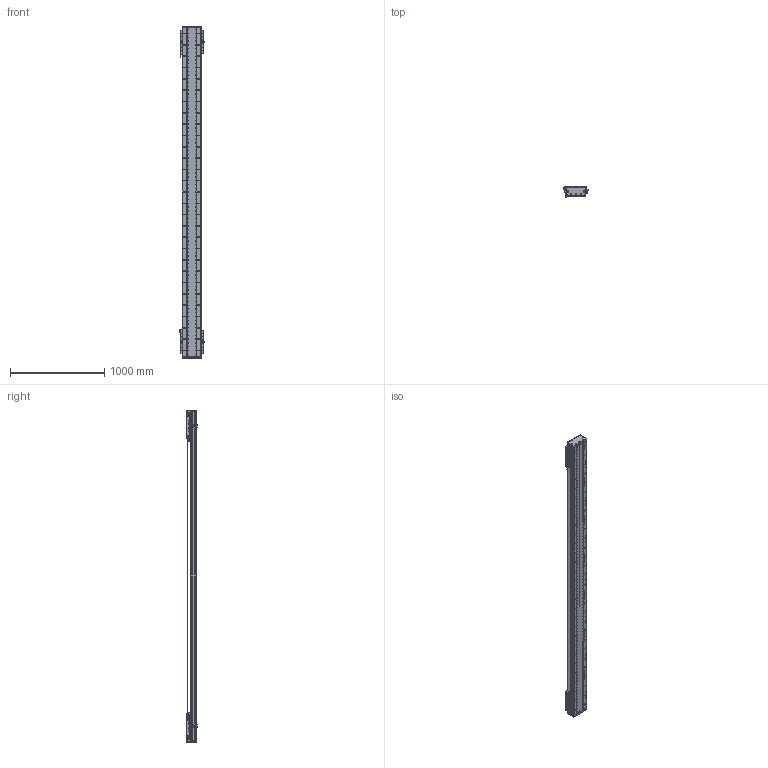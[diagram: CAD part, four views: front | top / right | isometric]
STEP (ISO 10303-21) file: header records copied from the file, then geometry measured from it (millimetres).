
FILE_DESCRIPTION (( 'STEP AP203' ), '1' );
FILE_NAME ('DA-C195-2-C3-T2900-C010-0.2 眻盄萇儂.STEP', '2025-08-15T00:53:05', ( '' ), ( '' ), 'SwSTEP 2.0', 'SolidWorks 2019', '' );
FILE_SCHEMA (( 'CONFIG_CONTROL_DESIGN' ));
Length unit declared in the file: millimetre
Products named in the file (19): DA195詩湍菜輸; DKW-KGZ-ZJ-00 中间光电开关支架; DKW168-HXJ-ZJ-00 笢潔滅袉砎蝶; PM-T45ㄗ侂狟ㄘ; DA-C195-2-C3-T2900-C010-0.2 眻盄萇儂; DA195詩湍嶺輸; DA165-GYP-00 光电感应片(默认); PM-Y65嫖萇羲壽郪璃; LMT黍杅芛; MS200 棠掑喜S315-T240; DA195詩湍郪璃; DKW-GYP-ZJ-00 笢潔嫖萇覜茼え; IU-CU195-L-00 菁釱(L3480); DA195詩湍裔啣; DA95-HXJ-00 遣喳砎蝶; DA-C195-GD-DB-H-00 傷啣; IU-CU195-L 菁釱絳寢; CU195-C3賑輸-俋楷; 葩璃 DA95-GT-T-00
Assembly tree (37 placements, depth 3):
  DA-C195-2-C3-T2900-C010-0.2 眻盄萇儂
    DA195詩湍郪璃
      DA195詩湍菜輸  x2
      DA195詩湍裔啣
      DA195詩湍嶺輸  x2
      DA95-HXJ-00 遣喳砎蝶  x8
      DA-C195-GD-DB-H-00 傷啣  x2
    IU-CU195-L 菁釱絳寢
      IU-CU195-L-00 菁釱(L3480)
      葩璃 DA95-GT-T-00  x4
    LMT黍杅芛  x2
    MS200 棠掑喜S315-T240
    PM-T45ㄗ侂狟ㄘ  x4
    DA165-GYP-00 光电感应片(默认)  x2
    PM-Y65嫖萇羲壽郪璃
    DKW168-HXJ-ZJ-00 笢潔滅袉砎蝶
    DKW-GYP-ZJ-00 笢潔嫖萇覜茼え
    DKW-KGZ-ZJ-00 中间光电开关支架
    CU195-C3賑輸-俋楷  x2
Bounding box: 258.2 x 115.45 x 3520 mm (x, y, z)
Volume: 21554290.7 mm3; surface area: 6275338.2 mm2
Topology: 154 solids, 218 shells, 7259 faces, 19839 edges, 12421 vertices
Faces by surface type: cylinder 3642, plane 2565, cone 884, torus 88, sphere 72, bspline 8
Entity records: 168773 total; most frequent: CARTESIAN_POINT 47489, ORIENTED_EDGE 25694, DIRECTION 23960, EDGE_CURVE 12847, AXIS2_PLACEMENT_3D 8857, VERTEX_POINT 8346, LINE 6246, VECTOR 6246
